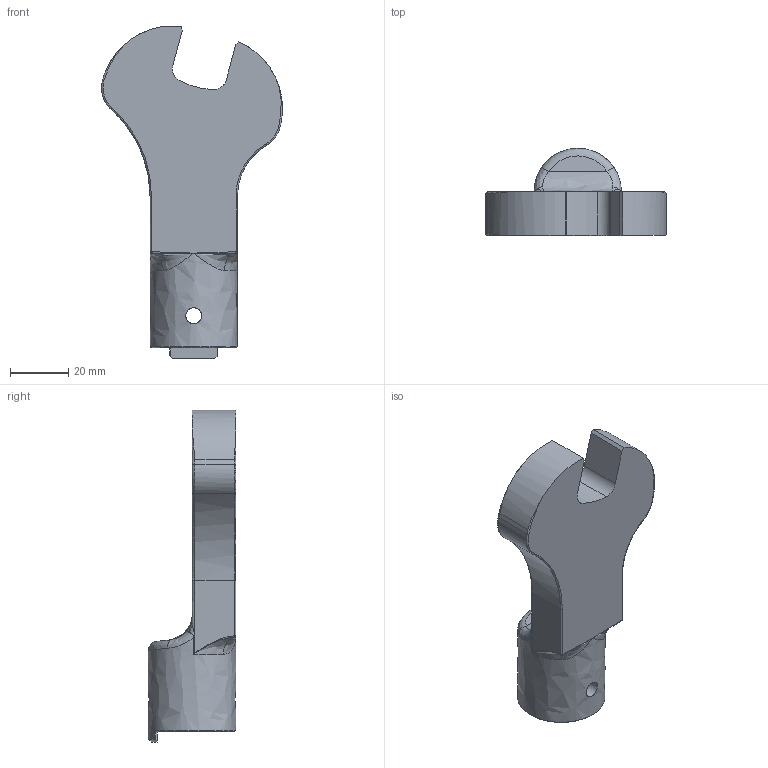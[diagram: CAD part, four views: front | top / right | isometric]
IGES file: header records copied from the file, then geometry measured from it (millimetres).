
Global section: file name: SH22DX19; native system: Autodesk Inventor 2016; preprocessor: unknown; author: Q600; date: 20151029.174342; units: millimetre
Bounding box: 62.07 x 30 x 113.95 mm (x, y, z)
Volume: 56379 mm3; surface area: 15068.2 mm2
Topology: 1 solids, 1 shells, 79 faces, 206 edges, 120 vertices
Faces by surface type: bspline 79
